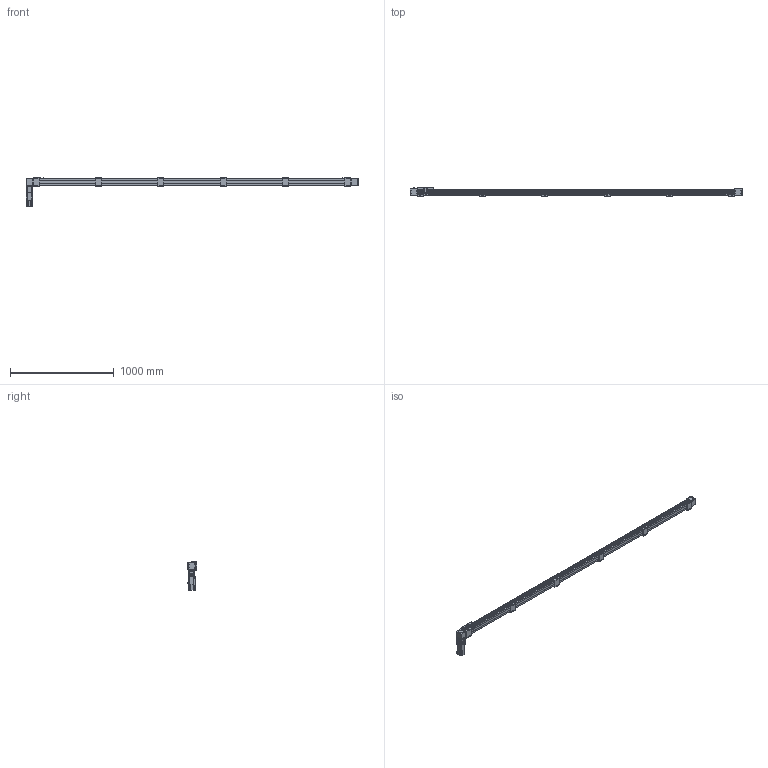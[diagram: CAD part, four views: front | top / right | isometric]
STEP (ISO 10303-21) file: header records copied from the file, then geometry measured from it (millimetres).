
FILE_DESCRIPTION(/* description */ ('STEP AP214'),/* implementation_level */ '2;1');
FILE_NAME(/* name */ 'SK60-P13-S2900-BR-T40-C1-N(0)',/* time_stamp */ '2023-04-06T04:03:32+02:00',/* author */ ('License CC BY-ND 4.0'),/* organization */ ('CADENAS'),/* preprocessor_version */ 'ST-DEVELOPER v19.3',/* originating_system */ 'PARTsolutions',/* authorisation */ ' ');
FILE_SCHEMA (('AUTOMOTIVE_DESIGN {1 0 10303 214 3 1 1}'));
Length unit declared in the file: millimetre
Products named in the file (11): SK60-P13-S2900-BR-T40-C1-N(0); PSC140-sensor; SK60-S450_seat; SK60-S450-BL-C1_slider; SK60_body3; SK60_body6; SK60-BL_body2; T40-p1; SK60_body5; SK60_body4; SK60-S2900-BR-C1_body
Assembly tree (21 placements, depth 2):
  SK60-P13-S2900-BR-T40-C1-N(0)
    PSC140-sensor  x3
    SK60-S450_seat  x6
    SK60-S450-BL-C1_slider
    SK60_body3  x3
    SK60_body6  x2
    SK60-BL_body2  x2
    T40-p1
    SK60_body5
    SK60_body4
    SK60-S2900-BR-C1_body
Bounding box: 3200 x 90 x 279.1 mm (x, y, z)
Volume: 11456829.1 mm3; surface area: 1379742.8 mm2
Topology: 21 solids, 25 shells, 1010 faces, 2501 edges, 1650 vertices
Faces by surface type: plane 640, cylinder 330, cone 38, torus 2
Full cylindrical faces by diameter (mm): 2.8 x3, 3.3 x4, 4.2 x8, 4.5 x26, 4.6 x3, 4.917 x32, 5 x2, 5.478 x4, 5.5 x35, 6.5 x12, 8 x4, 8.5 x4, 9.988 x4, 10 x24, 13.556 x1, 14 x1, 14.586 x1, 19.692 x1, 38.432 x2, 43 x1, 44 x3, 47 x2, 50 x2
Entity records: 19403 total; most frequent: DIRECTION 3300, CARTESIAN_POINT 3293, ORIENTED_EDGE 3050, EDGE_CURVE 1525, AXIS2_PLACEMENT_3D 1104, LINE 1092, VECTOR 1092, VERTEX_POINT 1077
